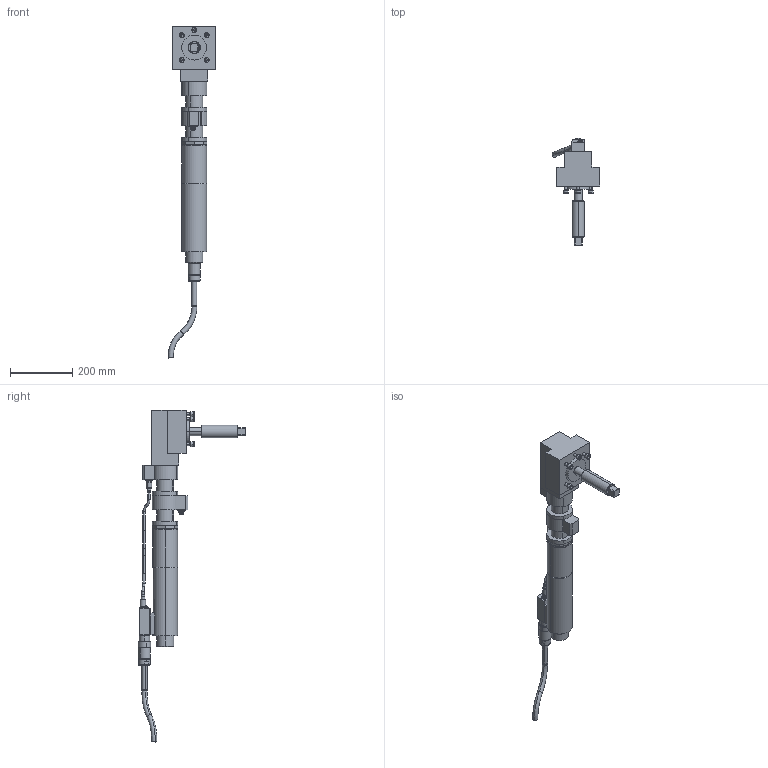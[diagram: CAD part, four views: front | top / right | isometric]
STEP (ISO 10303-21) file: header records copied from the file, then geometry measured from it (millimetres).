
FILE_DESCRIPTION(('CATIA V5 STEP'),'2;1');
FILE_NAME('O:\3D-Schrauber\stp\7920558_ECR326_DWR300_DR300_AW3350_AllCATPart.stp','2010-05-05T11:11:58+00:00',('none'),('none'),'CATIA Version 5 Release 19 SP 3 (IN-10)','CATIA V5 STEP AP214','none');
FILE_SCHEMA(('AUTOMOTIVE_DESIGN { 1 0 10303 214 1 1 1 1 }'));
Length unit declared in the file: millimetre
Products named in the file (1): 7920558_ECR326_DWR300_DR300_AW3350_AllCATPart
Bounding box: 153.32 x 345.98 x 1068.66 mm (x, y, z)
Volume: 5611609.5 mm3; surface area: 443022.6 mm2
Topology: 23 solids, 23 shells, 520 faces, 1134 edges, 718 vertices
Faces by surface type: plane 219, cylinder 187, cone 70, torus 44
Entity records: 13614 total; most frequent: CARTESIAN_POINT 2697, ORIENTED_EDGE 2268, DIRECTION 1878, EDGE_CURVE 1134, AXIS2_PLACEMENT_3D 951, VERTEX_POINT 718, EDGE_LOOP 578, CIRCLE 550
